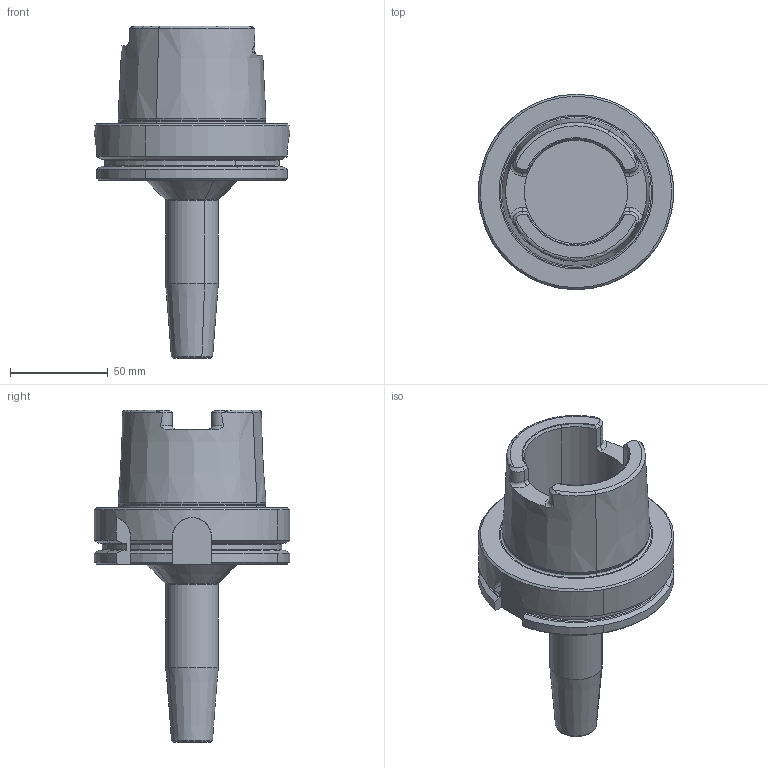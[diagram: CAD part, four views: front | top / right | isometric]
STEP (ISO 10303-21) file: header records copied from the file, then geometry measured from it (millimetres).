
FILE_DESCRIPTION(('CATIA V5 STEP','CAx-IF Rec.Pracs.--- Model Styling and Organization---1.2---2011-12-15'),'2;1');
FILE_NAME('\\nas01\drv1\utils\eitdev\rte\eit\transmagicconvert\db\out\4504210 L.stp','2014-04-02T11:14:17+00:00',('none'),('none'),'CATIA Version 5 Release 21 SP 5 (IN-10)','CATIA V5 STEP AP214','none');
FILE_SCHEMA(('AUTOMOTIVE_DESIGN { 1 0 10303 214 1 1 1 1 }'));
Length unit declared in the file: millimetre
Products named in the file (1): 60977723_0 Holder-Tool HSK A 100 SRKIN 8X120
Bounding box: 100 x 100 x 170 mm (x, y, z)
Volume: 338443.1 mm3; surface area: 53430.4 mm2
Topology: 1 solids, 1 shells, 139 faces, 370 edges, 236 vertices
Faces by surface type: cone 37, plane 37, cylinder 33, torus 32
Entity records: 4303 total; most frequent: CARTESIAN_POINT 1214, ORIENTED_EDGE 740, DIRECTION 461, EDGE_CURVE 370, AXIS2_PLACEMENT_3D 244, VERTEX_POINT 236, CIRCLE 161, EDGE_LOOP 142
